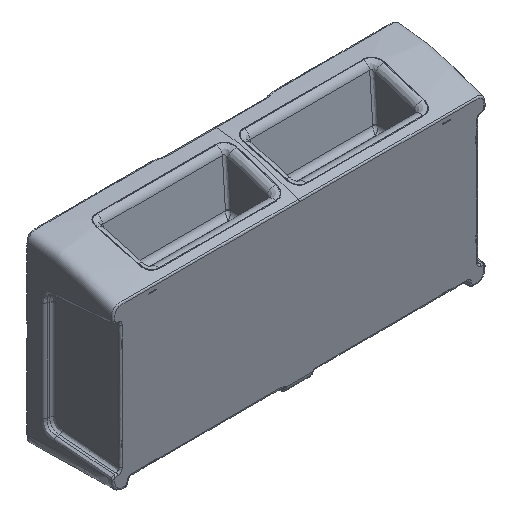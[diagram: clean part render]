
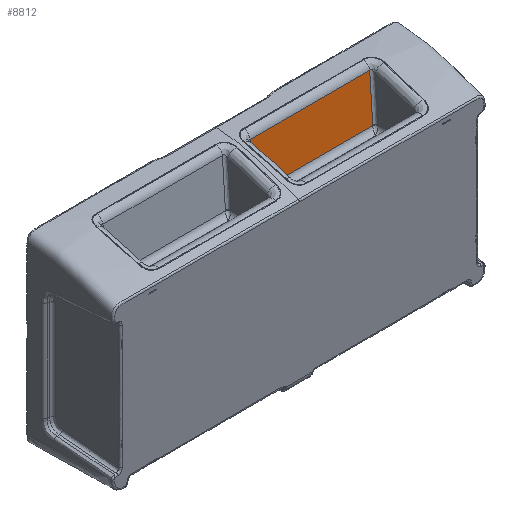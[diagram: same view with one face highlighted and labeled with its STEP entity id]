
A CAD part, isometric view. The second image highlights one B-rep face of the part: STEP entity #8812.
In plain terms, the highlighted planar face has unit normal (0, -0.99, 0.139).
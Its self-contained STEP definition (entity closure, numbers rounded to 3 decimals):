
#714=LINE('',#118870,#1138);
#715=LINE('',#119066,#1139);
#723=LINE('',#120402,#1147);
#724=LINE('',#120744,#1148);
#1138=VECTOR('',#10979,1000.);
#1139=VECTOR('',#10982,10.);
#1147=VECTOR('',#10996,10.);
#1148=VECTOR('',#10999,10.);
#1242=PLANE('',#9422);
#1810=FACE_OUTER_BOUND('',#2396,.T.);
#2396=EDGE_LOOP('',(#7916,#7917,#7918,#7919,#7920,#7921));
#2750=CIRCLE('',#9416,15.287);
#2751=CIRCLE('',#9418,15.287);
#4060=VERTEX_POINT('',#117661);
#4063=VERTEX_POINT('',#118178);
#4071=VERTEX_POINT('',#118859);
#4072=VERTEX_POINT('',#118959);
#4073=VERTEX_POINT('',#119065);
#4080=VERTEX_POINT('',#120401);
#5370=EDGE_CURVE('',#4060,#4071,#2750,.T.);
#5371=EDGE_CURVE('',#4063,#4060,#714,.T.);
#5373=EDGE_CURVE('',#4072,#4063,#2751,.T.);
#5374=EDGE_CURVE('',#4071,#4073,#715,.T.);
#5387=EDGE_CURVE('',#4080,#4072,#723,.T.);
#5389=EDGE_CURVE('',#4080,#4073,#724,.T.);
#7916=ORIENTED_EDGE('',*,*,#5387,.T.);
#7917=ORIENTED_EDGE('',*,*,#5373,.T.);
#7918=ORIENTED_EDGE('',*,*,#5371,.T.);
#7919=ORIENTED_EDGE('',*,*,#5370,.T.);
#7920=ORIENTED_EDGE('',*,*,#5374,.T.);
#7921=ORIENTED_EDGE('',*,*,#5389,.F.);
#8812=ADVANCED_FACE('',(#1810),#1242,.F.);
#9416=AXIS2_PLACEMENT_3D('',#118868,#10975,#10976);
#9418=AXIS2_PLACEMENT_3D('',#118968,#10980,#10981);
#9422=AXIS2_PLACEMENT_3D('',#120743,#10997,#10998);
#10975=DIRECTION('center_axis',(0.,-0.99,
0.139));
#10976=DIRECTION('ref_axis',(0.998,-0.01,-0.069));
#10979=DIRECTION('',(1.,0.,0.));
#10980=DIRECTION('center_axis',(0.,-0.99,
0.139));
#10981=DIRECTION('ref_axis',(-0.99,-0.019,-0.137));
#10982=DIRECTION('',(0.069,0.139,0.988));
#10996=DIRECTION('',(0.069,-0.139,-0.988));
#10997=DIRECTION('center_axis',(0.,0.99,-0.139));
#10998=DIRECTION('ref_axis',(0.,0.139,0.99));
#10999=DIRECTION('',(1.,0.,0.));
#117661=CARTESIAN_POINT('',(716.883,-166.371,225.825));
#118178=CARTESIAN_POINT('',(93.117,-166.371,225.825));
#118859=CARTESIAN_POINT('',(716.993,-166.225,226.864));
#118868=CARTESIAN_POINT('Origin',(701.743,-166.077,227.912));
#118870=CARTESIAN_POINT('',(730.,-166.371,225.825));
#118959=CARTESIAN_POINT('',(93.007,-166.225,226.864));
#118968=CARTESIAN_POINT('Origin',(108.257,-166.077,227.912));
#119065=CARTESIAN_POINT('',(733.617,-132.894,464.024));
#119066=CARTESIAN_POINT('',(716.993,-166.225,226.864));
#120401=CARTESIAN_POINT('',(76.383,-132.894,464.024));
#120402=CARTESIAN_POINT('',(76.383,-132.894,464.024));
#120743=CARTESIAN_POINT('Origin',(730.,-170.,200.));
#120744=CARTESIAN_POINT('',(76.383,-132.894,464.024));
